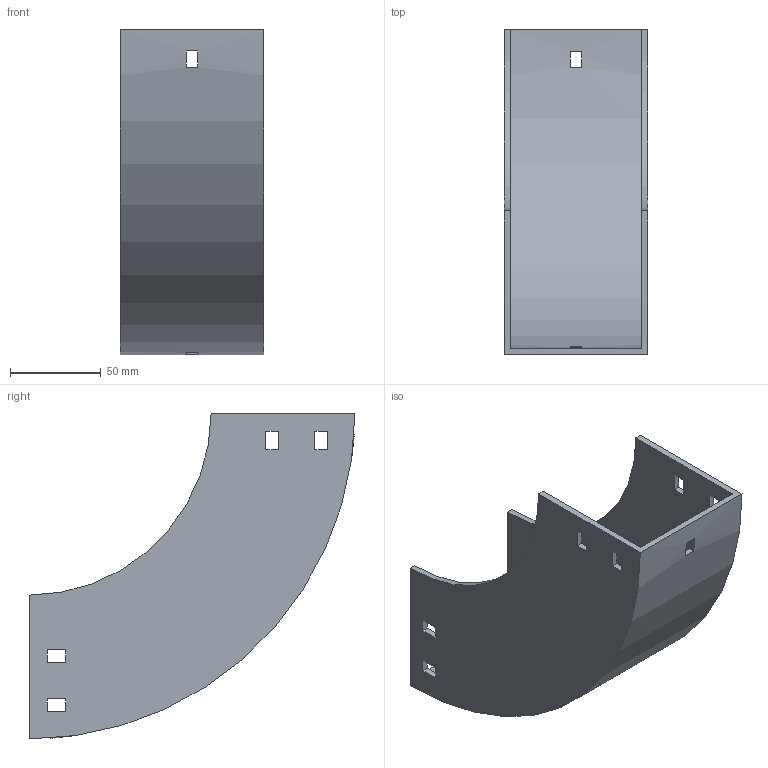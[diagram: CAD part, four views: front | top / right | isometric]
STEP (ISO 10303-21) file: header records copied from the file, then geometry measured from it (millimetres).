
FILE_DESCRIPTION (( 'STEP AP214' ), '1' );
FILE_NAME ('30B1C075.step', '2025-02-21T09:50:40', ( '' ), ( '' ), 'SwSTEP 2.0', 'SolidWorks 2023', '' );
FILE_SCHEMA (( 'AUTOMOTIVE_DESIGN' ));
Length unit declared in the file: millimetre
Products named in the file (1): 30B1C075
Bounding box: 79 x 179 x 179 mm (x, y, z)
Volume: 188968.2 mm3; surface area: 111880.6 mm2
Topology: 1 solids, 1 shells, 50 faces, 144 edges, 96 vertices
Faces by surface type: plane 46, cylinder 4
Entity records: 1687 total; most frequent: CARTESIAN_POINT 291, ORIENTED_EDGE 288, DIRECTION 262, EDGE_CURVE 144, VECTOR 128, LINE 128, VERTEX_POINT 96, EDGE_LOOP 70
